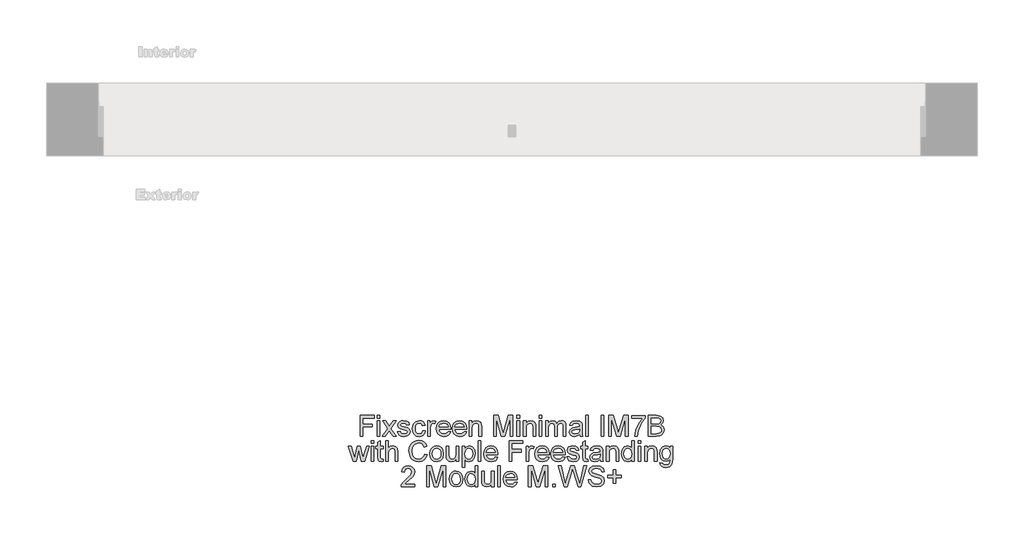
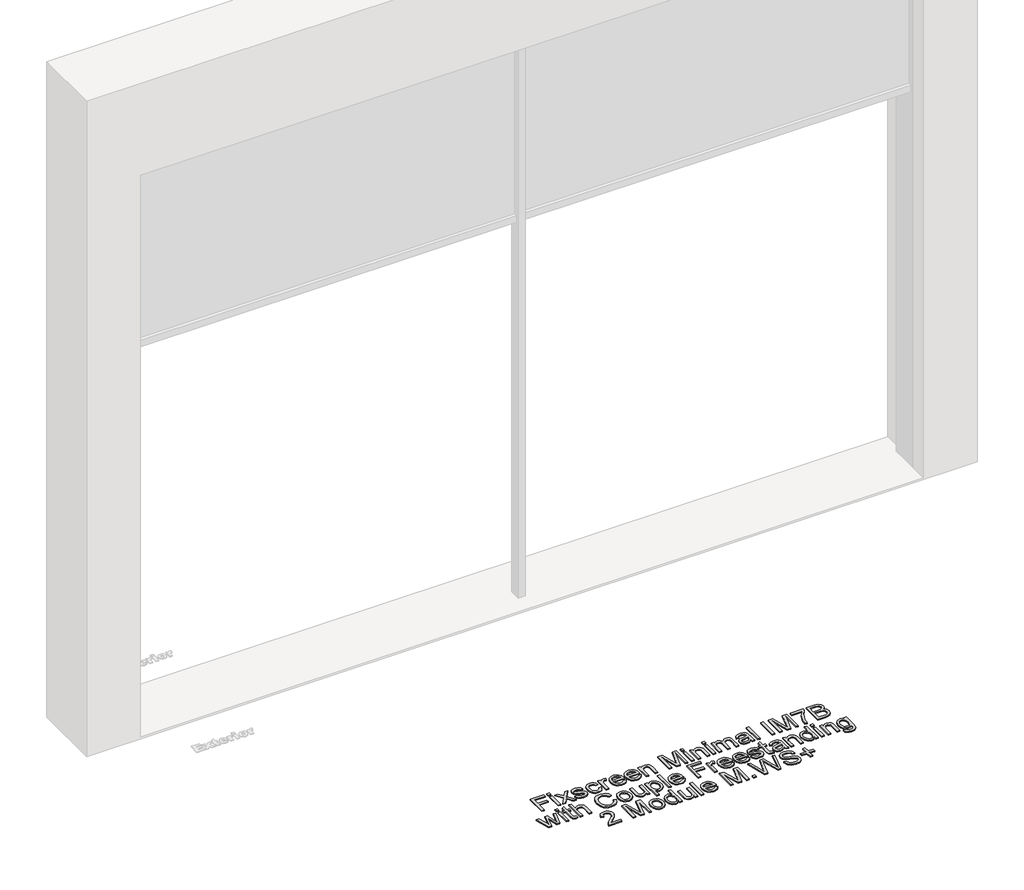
# One storey, part 6 of 14: 1 proxy.
"""IFC4 building model written with IfcOpenShell, lengths in millimetres."""

from ifc_helpers import new_model, si_unit, origin, origin_with_axes, place, context, project, spatial, polyline, outline, extrude, element, save

model = new_model("IFC4")

# Units and contexts
model_context = context("Model", 3, world=origin())
ifc_project = project(units=[si_unit("LENGTHUNIT", "METRE", prefix="MILLI")], contexts=[model_context])

# Site, building, storey
site = spatial("IfcSite", under=ifc_project)
building = spatial("IfcBuilding", under=site)
storey = spatial("IfcBuildingStorey", under=building, Name="Fixscreen Mini CF Overview Top", Elevation=0.0)

# Proxy
placement = place(None, origin())
element("IfcBuildingElementProxy", 1, Name="100mm Arial", ObjectType="100mm Arial", at=placement, inside=storey, context=model_context, shape_type="SweptSolid", body=[
    extrude(outline(polyline([(-8278.0016638, 2800.5131875), (-8278.0016638, 2900.9694977), (-8210.5075804, 2900.9694977), (-8210.5075804, 2888.4124589), (-8265.444625, 2888.4124589), (-8265.444625, 2858.5894918), (-8218.3557296, 2858.5894918), (-8218.3557296, 2846.0324531), (-8265.444625, 2846.0324531), (-8265.444625, 2800.5131875), (-8278.0016638, 2800.5131875)])), origin_with_axes(), (0.0, 0.0, 1.0), 5.0),
    extrude(outline(polyline([(-8194.811282, 2800.5131875), (-8194.811282, 2874.2857903), (-8182.2542432, 2874.2857903), (-8182.2542432, 2800.5131875), (-8194.811282, 2800.5131875)])), origin_with_axes(), (0.0, 0.0, 1.0), 5.0),
    extrude(outline(polyline([(-8194.811282, 2888.4124589), (-8194.811282, 2900.9694977), (-8182.2542432, 2900.9694977), (-8182.2542432, 2888.4124589), (-8194.811282, 2888.4124589)])), origin_with_axes(), (0.0, 0.0, 1.0), 5.0),
    extrude(outline(polyline([(-8171.2668343, 2800.5131875), (-8144.4359741, 2837.5956927), (-8169.6972044, 2874.2857903), (-8154.5895171, 2874.2857903), (-8142.4003604, 2856.6274545), (-8136.7104522, 2848.288796), (-8131.7808334, 2855.1068756), (-8117.8994195, 2874.2857903), (-8102.7917322, 2874.2857903), (-8129.3282868, 2837.5956927), (-8103.7727509, 2800.5131875), (-8118.8804381, 2800.5131875), (-8134.2579055, 2822.8068365), (-8137.0783342, 2826.8780639), (-8156.159147, 2800.5131875), (-8171.2668343, 2800.5131875)])), origin_with_axes(), (0.0, 0.0, 1.0), 5.0),
    extrude(outline(polyline([(-8097.4942315, 2822.4880054), (-8084.9371927, 2824.0576352), (-8079.1246572, 2814.737958), (-8065.807329, 2811.5005965), (-8053.0050355, 2814.4681779), (-8048.8357063, 2821.4334103), (-8053.029561, 2827.0742676), (-8065.9544818, 2830.6549857), (-8084.8636163, 2836.798615), (-8093.1164358, 2843.9723139), (-8095.9246016, 2854.1013315), (-8093.6682587, 2863.4577969), (-8087.5123667, 2870.6069704), (-8079.5293274, 2874.3225785), (-8068.7258595, 2875.8554202), (-8053.4464939, 2873.3906108), (-8043.7344093, 2866.7196839), (-8039.4179272, 2855.4502322), (-8051.974966, 2853.8806023), (-8056.6961182, 2860.8090466), (-8067.7448408, 2863.2983814), (-8079.7623193, 2860.9194112), (-8083.3675629, 2855.3766558), (-8081.8715094, 2851.7223613), (-8077.1871454, 2848.9509836), (-8066.3714147, 2846.2777077), (-8047.9405267, 2840.3670704), (-8039.381139, 2833.671618), (-8036.2786675, 2822.7577855), (-8039.9206992, 2810.740307), (-8050.4298616, 2802.0215037), (-8065.9790072, 2798.9435577), (-8078.6402792, 2800.4273484), (-8087.8802487, 2804.8787206), (-8094.0484035, 2812.2486232), (-8097.4942315, 2822.4880054)])), origin_with_axes(), (0.0, 0.0, 1.0), 5.0),
    extrude(outline(polyline([(-7975.0631035, 2827.1968949), (-7962.5060647, 2825.6272651), (-7966.0070751, 2814.4589808), (-7972.5860314, 2806.0191547), (-7981.6236657, 2800.712457), (-7992.5007101, 2798.9435577), (-8005.8578922, 2801.4114327), (-8016.3026752, 2808.8150579), (-8023.0441127, 2820.8294707), (-8025.2912586, 2837.1297088), (-8021.4530231, 2857.9886179), (-8009.7543756, 2871.3917853), (-7992.6723883, 2875.8554202), (-7982.0620585, 2874.3225785), (-7973.5793128, 2869.7240536), (-7967.4939314, 2862.3051), (-7964.0756946, 2852.3109725), (-7976.6327333, 2850.7413426), (-7982.4575316, 2860.146859), (-7992.5742865, 2863.2983814), (-8000.6891501, 2861.7471456), (-8007.1301507, 2857.0934384), (-8011.3332025, 2849.0858736), (-8012.7342198, 2837.4730653), (-8011.3638594, 2825.7039072), (-8007.2527781, 2817.6687513), (-8000.9282734, 2813.0426352), (-7992.917643, 2811.5005965), (-7981.0841055, 2815.3510947), (-7975.0631035, 2827.1968949)])), origin_with_axes(), (0.0, 0.0, 1.0), 5.0),
    extrude(outline(polyline([(-7951.5186558, 2800.5131875), (-7951.5186558, 2874.2857903), (-7940.5312469, 2874.2857903), (-7940.5312469, 2863.3719578), (-7932.7321486, 2873.427399), (-7924.8839994, 2875.8554202), (-7912.2779097, 2871.9803965), (-7916.4717644, 2860.7232074), (-7925.3009323, 2863.2983814), (-7932.4010548, 2860.8213093), (-7936.9260033, 2853.9541787), (-7938.961617, 2839.2879498), (-7938.961617, 2800.5131875), (-7951.5186558, 2800.5131875)])), origin_with_axes(), (0.0, 0.0, 1.0), 5.0),
    extrude(outline(polyline([(-7852.7791283, 2822.4880054), (-7840.4673442, 2820.9183755), (-7844.9033879, 2811.6416179), (-7851.9820506, 2804.7070423), (-7861.5439168, 2800.3844288), (-7873.429571, 2798.9435577), (-7888.1632449, 2801.4298268), (-7899.5001417, 2808.8886343), (-7906.7290229, 2820.8356021), (-7909.13865, 2836.7863523), (-7906.7044974, 2853.273597), (-7899.4020398, 2865.6037752), (-7888.2184272, 2873.2925089), (-7874.1408095, 2875.8554202), (-7860.5015845, 2873.2986403), (-7849.6030804, 2865.6283007), (-7842.4569727, 2853.322648), (-7840.0749367, 2836.8599287), (-7840.1485131, 2833.4754143), (-7896.5816112, 2833.4754143), (-7894.4080417, 2824.0760293), (-7889.3588614, 2817.1659792), (-7882.0717322, 2812.9169421), (-7873.1843163, 2811.5005965), (-7860.8725322, 2814.1248214), (-7852.7791283, 2822.4880054)]), holes=[polyline([(-7896.5816112, 2846.0324531), (-7852.6319755, 2846.0324531), (-7857.6596961, 2857.4122695), (-7864.9805478, 2861.8268534), (-7874.1898604, 2863.2983814), (-7889.653167, 2858.6017546), (-7894.5184063, 2853.1111158), (-7896.5816112, 2846.0324531)])]), origin_with_axes(), (0.0, 0.0, 1.0), 5.0),
    extrude(outline(polyline([(-7775.8672658, 2822.4880054), (-7763.5554817, 2820.9183755), (-7767.9915255, 2811.6416179), (-7775.0701882, 2804.7070423), (-7784.6320544, 2800.3844288), (-7796.5177085, 2798.9435577), (-7811.2513824, 2801.4298268), (-7822.5882792, 2808.8886343), (-7829.8171604, 2820.8356021), (-7832.2267875, 2836.7863523), (-7829.792635, 2853.273597), (-7822.4901774, 2865.6037752), (-7811.3065647, 2873.2925089), (-7797.228947, 2875.8554202), (-7783.5897221, 2873.2986403), (-7772.691218, 2865.6283007), (-7765.5451102, 2853.322648), (-7763.1630743, 2836.8599287), (-7763.2366507, 2833.4754143), (-7819.6697487, 2833.4754143), (-7817.4961793, 2824.0760293), (-7812.4469989, 2817.1659792), (-7805.1598697, 2812.9169421), (-7796.2724538, 2811.5005965), (-7783.9606697, 2814.1248214), (-7775.8672658, 2822.4880054)]), holes=[polyline([(-7819.6697487, 2846.0324531), (-7775.720113, 2846.0324531), (-7780.7478336, 2857.4122695), (-7788.0686854, 2861.8268534), (-7797.277998, 2863.2983814), (-7812.7413045, 2858.6017546), (-7817.6065439, 2853.1111158), (-7819.6697487, 2846.0324531)])]), origin_with_axes(), (0.0, 0.0, 1.0), 5.0),
    extrude(outline(polyline([(-7750.6060355, 2800.5131875), (-7750.6060355, 2874.2857903), (-7738.0489967, 2874.2857903), (-7738.0489967, 2863.9850944), (-7728.4472767, 2872.8878387), (-7715.3384149, 2875.8554202), (-7703.4803519, 2873.4641872), (-7695.386948, 2867.1856678), (-7691.6222889, 2857.9518297), (-7690.9601014, 2845.8117239), (-7690.9601014, 2800.5131875), (-7703.5171401, 2800.5131875), (-7703.5171401, 2844.1194667), (-7704.9641426, 2855.229503), (-7710.0777024, 2861.1033521), (-7718.6984038, 2863.2983814), (-7732.3223003, 2858.3687627), (-7736.6173226, 2851.2257206), (-7738.0489967, 2839.6558318), (-7738.0489967, 2800.5131875), (-7750.6060355, 2800.5131875)])), origin_with_axes(), (0.0, 0.0, 1.0), 5.0),
    extrude(outline(polyline([(-7632.8837971, 2800.5131875), (-7632.8837971, 2900.9694977), (-7611.2768612, 2900.9694977), (-7590.7245204, 2830.1644764), (-7586.5797166, 2815.3756201), (-7582.0915563, 2831.3907497), (-7561.882572, 2900.9694977), (-7540.2756361, 2900.9694977), (-7540.2756361, 2800.5131875), (-7552.8326749, 2800.5131875), (-7552.8326749, 2888.4124589), (-7578.0693798, 2800.5131875), (-7595.0900534, 2800.5131875), (-7620.3267583, 2888.4124589), (-7620.3267583, 2800.5131875), (-7632.8837971, 2800.5131875)])), origin_with_axes(), (0.0, 0.0, 1.0), 5.0),
    extrude(outline(polyline([(-7519.8704481, 2888.4124589), (-7519.8704481, 2900.9694977), (-7507.3134094, 2900.9694977), (-7507.3134094, 2888.4124589), (-7519.8704481, 2888.4124589)])), origin_with_axes(), (0.0, 0.0, 1.0), 5.0),
    extrude(outline(polyline([(-7519.8704481, 2800.5131875), (-7519.8704481, 2874.2857903), (-7507.3134094, 2874.2857903), (-7507.3134094, 2800.5131875), (-7519.8704481, 2800.5131875)])), origin_with_axes(), (0.0, 0.0, 1.0), 5.0),
    extrude(outline(polyline([(-7488.4778512, 2800.5131875), (-7488.4778512, 2874.2857903), (-7475.9208124, 2874.2857903), (-7475.9208124, 2863.9850944), (-7466.3190924, 2872.8878387), (-7453.2102306, 2875.8554202), (-7441.3521676, 2873.4641872), (-7433.2587637, 2867.1856678), (-7429.4941047, 2857.9518297), (-7428.8319171, 2845.8117239), (-7428.8319171, 2800.5131875), (-7441.3889558, 2800.5131875), (-7441.3889558, 2844.1194667), (-7442.8359583, 2855.229503), (-7447.9495181, 2861.1033521), (-7456.5702195, 2863.2983814), (-7470.1941161, 2858.3687627), (-7474.4891383, 2851.2257206), (-7475.9208124, 2839.6558318), (-7475.9208124, 2800.5131875), (-7488.4778512, 2800.5131875)])), origin_with_axes(), (0.0, 0.0, 1.0), 5.0),
    extrude(outline(polyline([(-7411.5659888, 2800.5131875), (-7411.5659888, 2874.2857903), (-7399.00895, 2874.2857903), (-7399.00895, 2800.5131875), (-7411.5659888, 2800.5131875)])), origin_with_axes(), (0.0, 0.0, 1.0), 5.0),
    extrude(outline(polyline([(-7411.5659888, 2888.4124589), (-7411.5659888, 2900.9694977), (-7399.00895, 2900.9694977), (-7399.00895, 2888.4124589), (-7411.5659888, 2888.4124589)])), origin_with_axes(), (0.0, 0.0, 1.0), 5.0),
    extrude(outline(polyline([(-7380.1733918, 2800.5131875), (-7380.1733918, 2874.2857903), (-7367.6163531, 2874.2857903), (-7367.6163531, 2862.1456845), (-7358.9833889, 2872.0907611), (-7346.6961303, 2875.8554202), (-7334.114566, 2872.0171847), (-7327.1983845, 2861.2627677), (-7317.4004607, 2872.207257), (-7305.027363, 2875.8554202), (-7295.5881241, 2874.3379069), (-7288.6075632, 2869.7853672), (-7284.2941468, 2862.0751738), (-7282.8563414, 2851.0846991), (-7282.8563414, 2800.5131875), (-7295.4133801, 2800.5131875), (-7295.4133801, 2845.6890966), (-7296.5783398, 2856.1737334), (-7300.79672, 2861.3363441), (-7307.9704189, 2863.2983814), (-7320.3189912, 2858.2706608), (-7324.0070082, 2851.7284926), (-7325.2363472, 2842.1574294), (-7325.2363472, 2800.5131875), (-7337.793386, 2800.5131875), (-7337.793386, 2847.0870481), (-7340.6996538, 2859.2516794), (-7350.2277974, 2863.2983814), (-7359.5229492, 2860.6005801), (-7365.7033667, 2852.7033799), (-7367.6163531, 2837.71832), (-7367.6163531, 2800.5131875), (-7380.1733918, 2800.5131875)])), origin_with_axes(), (0.0, 0.0, 1.0), 5.0),
    extrude(outline(polyline([(-7216.9318878, 2809.9309666), (-7229.1087819, 2801.4206298), (-7242.5610002, 2798.9435577), (-7253.0548341, 2800.4334798), (-7260.7956844, 2804.903246), (-7265.5689533, 2811.6906688), (-7267.1600429, 2820.1335606), (-7264.7565472, 2830.0663745), (-7258.4412396, 2837.2768616), (-7249.6488599, 2841.3971399), (-7238.7840784, 2843.2856008), (-7217.0054642, 2847.6020829), (-7216.9318878, 2850.3979861), (-7220.3899786, 2859.6686124), (-7234.2713925, 2863.2983814), (-7246.9755841, 2860.882623), (-7253.0333743, 2852.3109725), (-7265.5904131, 2853.8806023), (-7260.1580223, 2866.1433355), (-7249.2196643, 2873.3292971), (-7232.6527118, 2875.8554202), (-7217.4346599, 2873.6236027), (-7208.8384839, 2868.0195337), (-7204.9879857, 2859.4969341), (-7204.3748491, 2848.5095252), (-7204.3748491, 2832.8868031), (-7203.7371869, 2811.0714008), (-7201.2355894, 2800.5131875), (-7213.7926281, 2800.5131875), (-7216.9318878, 2809.9309666)]), holes=[polyline([(-7216.9318878, 2835.0450442), (-7237.189923, 2831.1945459), (-7247.993391, 2829.1589322), (-7252.8862215, 2825.8479943), (-7254.6030041, 2821.0164774), (-7250.8628705, 2814.2229232), (-7239.8877243, 2811.5005965), (-7227.1835328, 2814.5049661), (-7218.992027, 2821.7767669), (-7217.0054642, 2831.4888515), (-7216.9318878, 2835.0450442)])]), origin_with_axes(), (0.0, 0.0, 1.0), 5.0),
    extrude(outline(polyline([(-7187.1089208, 2800.5131875), (-7187.1089208, 2900.9694977), (-7174.551882, 2900.9694977), (-7174.551882, 2800.5131875), (-7187.1089208, 2800.5131875)])), origin_with_axes(), (0.0, 0.0, 1.0), 5.0),
    extrude(outline(polyline([(-7113.336318, 2800.5131875), (-7113.336318, 2900.9694977), (-7100.7792792, 2900.9694977), (-7100.7792792, 2800.5131875), (-7113.336318, 2800.5131875)])), origin_with_axes(), (0.0, 0.0, 1.0), 5.0),
    extrude(outline(polyline([(-7075.6652017, 2800.5131875), (-7075.6652017, 2900.9694977), (-7054.0582658, 2900.9694977), (-7033.505925, 2830.1644764), (-7029.3611212, 2815.3756201), (-7024.8729609, 2831.3907497), (-7004.6639766, 2900.9694977), (-6983.0570408, 2900.9694977), (-6983.0570408, 2800.5131875), (-6995.6140795, 2800.5131875), (-6995.6140795, 2888.4124589), (-7020.8507844, 2800.5131875), (-7037.8714581, 2800.5131875), (-7063.1081629, 2888.4124589), (-7063.1081629, 2800.5131875), (-7075.6652017, 2800.5131875)])), origin_with_axes(), (0.0, 0.0, 1.0), 5.0),
    extrude(outline(polyline([(-6965.7911125, 2886.8428291), (-6965.7911125, 2899.3998678), (-6899.8666589, 2899.3998678), (-6899.8666589, 2889.2463248), (-6918.567327, 2862.2315236), (-6932.8779366, 2827.8100316), (-6937.5377752, 2800.5131875), (-6950.094814, 2800.5131875), (-6945.1038816, 2828.8401012), (-6931.4064087, 2860.8580975), (-6912.4236977, 2886.8428291), (-6965.7911125, 2886.8428291)])), origin_with_axes(), (0.0, 0.0, 1.0), 5.0),
    extrude(outline(polyline([(-6884.1703605, 2800.5131875), (-6884.1703605, 2900.9694977), (-6845.8370566, 2900.9694977), (-6827.0628121, 2898.014179), (-6815.9773013, 2888.9274937), (-6811.9673875, 2876.0761494), (-6815.3396392, 2864.3407137), (-6825.5299704, 2855.4502322), (-6813.1568727, 2846.081504), (-6808.8281279, 2830.458782), (-6811.7834466, 2816.9575127), (-6819.1042983, 2807.3435299), (-6830.0303935, 2802.2422329), (-6846.1313622, 2800.5131875), (-6884.1703605, 2800.5131875)]), holes=[polyline([(-6871.6133217, 2860.1591217), (-6848.6820107, 2860.1591217), (-6835.291106, 2861.2382422), (-6827.2344903, 2865.8858181), (-6824.5244263, 2874.0650611), (-6827.0505494, 2882.2565669), (-6834.2855619, 2887.1003465), (-6850.4233188, 2888.4124589), (-6871.6133217, 2888.4124589), (-6871.6133217, 2860.1591217)]), polyline([(-6871.6133217, 2813.0702263), (-6845.861582, 2813.0702263), (-6836.5419048, 2813.5607356), (-6828.6569674, 2816.2953251), (-6823.4330431, 2821.8748687), (-6821.3851666, 2830.3361546), (-6823.7886623, 2840.0972902), (-6831.5754979, 2845.9220885), (-6847.0878554, 2847.6020829), (-6871.6133217, 2847.6020829), (-6871.6133217, 2813.0702263)])]), origin_with_axes(), (0.0, 0.0, 1.0), 5.0),
    extrude(outline(polyline([(-8312.0675365, 2678.5383697), (-8334.5083383, 2752.3109725), (-8321.4607902, 2752.3109725), (-8308.7320731, 2709.268779), (-8304.9306258, 2693.8913116), (-8301.8158916, 2708.7046933), (-8291.686874, 2752.3109725), (-8276.7263395, 2752.3109725), (-8266.6463729, 2708.8273206), (-8263.8749952, 2695.4118905), (-8259.9018696, 2709.5630846), (-8247.1486271, 2752.3109725), (-8234.0520281, 2752.3109725), (-8256.6645081, 2678.5383697), (-8271.8457717, 2678.5383697), (-8281.48428, 2721.8012923), (-8284.2801832, 2735.2902988), (-8296.7145946, 2678.5383697), (-8312.0675365, 2678.5383697)])), origin_with_axes(), (0.0, 0.0, 1.0), 5.0),
    extrude(outline(polyline([(-8225.419064, 2678.5383697), (-8225.419064, 2752.3109725), (-8212.8620252, 2752.3109725), (-8212.8620252, 2678.5383697), (-8225.419064, 2678.5383697)])), origin_with_axes(), (0.0, 0.0, 1.0), 5.0),
    extrude(outline(polyline([(-8225.419064, 2766.4376411), (-8225.419064, 2778.9946798), (-8212.8620252, 2778.9946798), (-8212.8620252, 2766.4376411), (-8225.419064, 2766.4376411)])), origin_with_axes(), (0.0, 0.0, 1.0), 5.0),
    extrude(outline(polyline([(-8167.3427596, 2689.0107438), (-8165.7731298, 2678.1704877), (-8175.1663834, 2676.9687399), (-8185.6878085, 2679.0534045), (-8190.9362583, 2684.5225835), (-8192.4568372, 2698.7718794), (-8192.4568372, 2739.7539337), (-8201.8746163, 2739.7539337), (-8201.8746163, 2752.3109725), (-8192.4568372, 2752.3109725), (-8192.4568372, 2770.2390884), (-8179.8997984, 2777.6212537), (-8179.8997984, 2752.3109725), (-8167.3427596, 2752.3109725), (-8167.3427596, 2739.7539337), (-8179.8997984, 2739.7539337), (-8179.8997984, 2699.1397614), (-8179.2376108, 2692.6650383), (-8177.0916325, 2690.3719072), (-8172.8119386, 2689.5257786), (-8167.3427596, 2689.0107438)])), origin_with_axes(), (0.0, 0.0, 1.0), 5.0),
    extrude(outline(polyline([(-8154.7857209, 2678.5383697), (-8154.7857209, 2778.9946798), (-8142.2286821, 2778.9946798), (-8142.2286821, 2742.0593275), (-8132.4368897, 2750.9252836), (-8120.3764916, 2753.8806023), (-8106.2743484, 2750.6555035), (-8097.7149607, 2741.7404965), (-8095.1397867, 2725.2348576), (-8095.1397867, 2678.5383697), (-8107.6968255, 2678.5383697), (-8107.6968255, 2723.9350079), (-8111.6944765, 2737.1787597), (-8123.025242, 2741.3235635), (-8133.3136751, 2738.5276604), (-8140.1808057, 2730.9492913), (-8142.2286821, 2717.7300649), (-8142.2286821, 2678.5383697), (-8154.7857209, 2678.5383697)])), origin_with_axes(), (0.0, 0.0, 1.0), 5.0),
    extrude(outline(polyline([(-7966.4301393, 2714.2474487), (-7953.8731006, 2711.0100871), (-7959.667242, 2696.3775808), (-7968.7600586, 2685.6875431), (-7980.7039608, 2679.1484407), (-7995.0513586, 2676.9687399), (-8009.6164199, 2678.6180775), (-8021.183243, 2683.5660903), (-8030.049199, 2691.6411001), (-8036.5116594, 2702.6714286), (-8041.772372, 2729.5268142), (-8040.2855156, 2744.174649), (-8035.8249464, 2756.8236583), (-8028.6236563, 2767.0722375), (-8018.9146373, 2774.5187822), (-8007.3999309, 2779.0529278), (-7994.7815784, 2780.5643097), (-7981.0135948, 2778.6084038), (-7969.6307127, 2772.7406859), (-7960.9885515, 2763.3229069), (-7955.4427304, 2750.7168172), (-7967.9997692, 2747.7247103), (-7978.3004651, 2763.1634913), (-7995.2720878, 2768.0072709), (-8014.9169863, 2762.6361938), (-8026.0147598, 2748.2152196), (-8029.2153332, 2729.5513397), (-8025.4261486, 2707.9198784), (-8013.6293993, 2694.0997781), (-7996.3021574, 2689.5257786), (-7985.8205862, 2691.0831457), (-7977.0864545, 2695.7552471), (-7970.4921697, 2703.4930317), (-7966.4301393, 2714.2474487)])), origin_with_axes(), (0.0, 0.0, 1.0), 5.0),
    extrude(outline(polyline([(-7941.3160618, 2715.4246711), (-7938.5998664, 2733.2117655), (-7930.4512802, 2745.713622), (-7920.3835763, 2751.8388572), (-7908.3293096, 2753.8806023), (-7895.1376744, 2751.3943332), (-7884.6009209, 2743.9355257), (-7877.6939364, 2732.0927911), (-7875.3916083, 2716.4547407), (-7879.4628357, 2694.1120408), (-7891.3208987, 2681.4691629), (-7908.3293096, 2676.9687399), (-7921.6803603, 2679.445812), (-7932.2048511, 2686.8770283), (-7939.0382591, 2698.9680832), (-7941.3160618, 2715.4246711)]), holes=[polyline([(-7928.759023, 2715.4491965), (-7927.3058892, 2704.0847086), (-7922.9464875, 2695.988239), (-7916.3859253, 2691.1413937), (-7908.3293096, 2689.5257786), (-7900.3094821, 2691.1505908), (-7893.7611826, 2696.0250272), (-7889.4017809, 2704.2287957), (-7887.948647, 2715.841604), (-7889.410978, 2726.8749982), (-7893.7979708, 2734.8611032), (-7900.3554673, 2739.7079484), (-7908.3293096, 2741.3235635), (-7916.3859253, 2739.7140798), (-7922.9464875, 2734.8856286), (-7927.3058892, 2726.8075531), (-7928.759023, 2715.4491965)])]), origin_with_axes(), (0.0, 0.0, 1.0), 5.0),
    extrude(outline(polyline([(-7814.1760443, 2678.5383697), (-7814.1760443, 2691.2180358), (-7824.0107563, 2680.5310638), (-7836.8375752, 2676.9687399), (-7848.6465872, 2679.4703374), (-7856.7890421, 2685.7488568), (-7860.5291757, 2694.9949576), (-7861.2649397, 2706.6690796), (-7861.2649397, 2752.3109725), (-7848.7079009, 2752.3109725), (-7848.7079009, 2712.579717), (-7847.9476114, 2699.7774236), (-7842.9812045, 2692.2603681), (-7833.6247391, 2689.5257786), (-7823.1401022, 2692.3216818), (-7816.211658, 2699.9368391), (-7814.1760443, 2713.9286176), (-7814.1760443, 2752.3109725), (-7801.6190055, 2752.3109725), (-7801.6190055, 2678.5383697), (-7814.1760443, 2678.5383697)])), origin_with_axes(), (0.0, 0.0, 1.0), 5.0),
    extrude(outline(polyline([(-7784.3530772, 2650.2850325), (-7784.3530772, 2752.3109725), (-7771.7960384, 2752.3109725), (-7771.7960384, 2739.9991884), (-7763.1140233, 2750.4102488), (-7751.3908504, 2753.8806023), (-7735.4738228, 2749.02456), (-7725.075025, 2735.3393498), (-7721.5678834, 2715.9887568), (-7725.5287462, 2695.6448825), (-7737.0311899, 2681.787994), (-7752.9114293, 2676.9687399), (-7763.8375246, 2680.1938387), (-7771.7960384, 2688.3485562), (-7771.7960384, 2650.2850325), (-7784.3530772, 2650.2850325)]), holes=[polyline([(-7771.7960384, 2714.8360599), (-7770.4379407, 2703.5788708), (-7766.3636476, 2695.7061961), (-7760.3518427, 2691.070883), (-7753.1812095, 2689.5257786), (-7745.8940803, 2691.1260653), (-7739.7289912, 2695.9269253), (-7735.5259394, 2704.0877743), (-7734.1249221, 2715.7680276), (-7735.4922169, 2726.963903), (-7739.5941011, 2734.9469423), (-7745.596709, 2739.7294082), (-7752.6661747, 2741.3235635), (-7759.7632315, 2739.6282407), (-7765.9957656, 2734.5422721), (-7770.3459702, 2726.2250733), (-7771.7960384, 2714.8360599)])]), origin_with_axes(), (0.0, 0.0, 1.0), 5.0),
    extrude(outline(polyline([(-7707.4412147, 2678.5383697), (-7707.4412147, 2778.9946798), (-7694.884176, 2778.9946798), (-7694.884176, 2678.5383697), (-7707.4412147, 2678.5383697)])), origin_with_axes(), (0.0, 0.0, 1.0), 5.0),
    extrude(outline(polyline([(-7624.3979857, 2700.5131875), (-7612.0862016, 2698.9435577), (-7616.5222453, 2689.6668001), (-7623.600908, 2682.7322244), (-7633.1627742, 2678.409611), (-7645.0484284, 2676.9687399), (-7659.7821023, 2679.455009), (-7671.1189991, 2686.9138165), (-7678.3478803, 2698.8607842), (-7680.7575074, 2714.8115344), (-7678.3233548, 2731.2987792), (-7671.0208972, 2743.6289574), (-7659.8372846, 2751.3176911), (-7645.7596669, 2753.8806023), (-7632.1204419, 2751.3238224), (-7621.2219378, 2743.6534828), (-7614.07583, 2731.3478301), (-7611.6937941, 2714.8851108), (-7611.7673705, 2711.5005965), (-7668.2004686, 2711.5005965), (-7666.0268991, 2702.1012115), (-7660.9777188, 2695.1911613), (-7653.6905896, 2690.9421243), (-7644.8031737, 2689.5257786), (-7632.4913896, 2692.1500035), (-7624.3979857, 2700.5131875)]), holes=[polyline([(-7668.2004686, 2724.0576352), (-7624.2508329, 2724.0576352), (-7629.2785535, 2735.4374516), (-7636.5994052, 2739.8520356), (-7645.8087178, 2741.3235635), (-7661.2720243, 2736.6269367), (-7666.1372637, 2731.136298), (-7668.2004686, 2724.0576352)])]), origin_with_axes(), (0.0, 0.0, 1.0), 5.0),
    extrude(outline(polyline([(-7558.3263794, 2678.5383697), (-7558.3263794, 2778.9946798), (-7490.832296, 2778.9946798), (-7490.832296, 2766.4376411), (-7545.7693406, 2766.4376411), (-7545.7693406, 2736.614674), (-7498.6804452, 2736.614674), (-7498.6804452, 2724.0576352), (-7545.7693406, 2724.0576352), (-7545.7693406, 2678.5383697), (-7558.3263794, 2678.5383697)])), origin_with_axes(), (0.0, 0.0, 1.0), 5.0),
    extrude(outline(polyline([(-7475.1359975, 2678.5383697), (-7475.1359975, 2752.3109725), (-7464.1485886, 2752.3109725), (-7464.1485886, 2741.3971399), (-7456.3494903, 2751.4525811), (-7448.5013411, 2753.8806023), (-7435.8952514, 2750.0055786), (-7440.0891061, 2738.7483896), (-7448.918274, 2741.3235635), (-7456.0183965, 2738.8464914), (-7460.543345, 2731.9793609), (-7462.5789588, 2717.313132), (-7462.5789588, 2678.5383697), (-7475.1359975, 2678.5383697)])), origin_with_axes(), (0.0, 0.0, 1.0), 5.0),
    extrude(outline(polyline([(-7376.39647, 2700.5131875), (-7364.0846859, 2698.9435577), (-7368.5207296, 2689.6668001), (-7375.5993924, 2682.7322244), (-7385.1612586, 2678.409611), (-7397.0469127, 2676.9687399), (-7411.7805866, 2679.455009), (-7423.1174834, 2686.9138165), (-7430.3463646, 2698.8607842), (-7432.7559917, 2714.8115344), (-7430.3218391, 2731.2987792), (-7423.0193815, 2743.6289574), (-7411.8357689, 2751.3176911), (-7397.7581512, 2753.8806023), (-7384.1189262, 2751.3238224), (-7373.2204221, 2743.6534828), (-7366.0743144, 2731.3478301), (-7363.6922784, 2714.8851108), (-7363.7658548, 2711.5005965), (-7420.1989529, 2711.5005965), (-7418.0253835, 2702.1012115), (-7412.9762031, 2695.1911613), (-7405.6890739, 2690.9421243), (-7396.801658, 2689.5257786), (-7384.4898739, 2692.1500035), (-7376.39647, 2700.5131875)]), holes=[polyline([(-7420.1989529, 2724.0576352), (-7376.2493172, 2724.0576352), (-7381.2770378, 2735.4374516), (-7388.5978895, 2739.8520356), (-7397.8072021, 2741.3235635), (-7413.2705087, 2736.6269367), (-7418.1357481, 2731.136298), (-7420.1989529, 2724.0576352)])]), origin_with_axes(), (0.0, 0.0, 1.0), 5.0),
    extrude(outline(polyline([(-7299.4846076, 2700.5131875), (-7287.1728235, 2698.9435577), (-7291.6088672, 2689.6668001), (-7298.6875299, 2682.7322244), (-7308.2493961, 2678.409611), (-7320.1350502, 2676.9687399), (-7334.8687241, 2679.455009), (-7346.2056209, 2686.9138165), (-7353.4345022, 2698.8607842), (-7355.8441292, 2714.8115344), (-7353.4099767, 2731.2987792), (-7346.1075191, 2743.6289574), (-7334.9239064, 2751.3176911), (-7320.8462887, 2753.8806023), (-7307.2070638, 2751.3238224), (-7296.3085597, 2743.6534828), (-7289.1624519, 2731.3478301), (-7286.780416, 2714.8851108), (-7286.8539924, 2711.5005965), (-7343.2870904, 2711.5005965), (-7341.113521, 2702.1012115), (-7336.0643406, 2695.1911613), (-7328.7772114, 2690.9421243), (-7319.8897956, 2689.5257786), (-7307.5780115, 2692.1500035), (-7299.4846076, 2700.5131875)]), holes=[polyline([(-7343.2870904, 2724.0576352), (-7299.3374548, 2724.0576352), (-7304.3651754, 2735.4374516), (-7311.6860271, 2739.8520356), (-7320.8953397, 2741.3235635), (-7336.3586462, 2736.6269367), (-7341.2238856, 2731.136298), (-7343.2870904, 2724.0576352)])]), origin_with_axes(), (0.0, 0.0, 1.0), 5.0),
    extrude(outline(polyline([(-7278.9322668, 2700.5131875), (-7266.375228, 2702.0828174), (-7260.5626925, 2692.7631402), (-7247.2453642, 2689.5257786), (-7234.4430708, 2692.49336), (-7230.2737415, 2699.4585925), (-7234.4675963, 2705.0994497), (-7247.392517, 2708.6801678), (-7266.3016516, 2714.8237972), (-7274.554471, 2721.9974961), (-7277.3626369, 2732.1265137), (-7275.106294, 2741.4829791), (-7268.950402, 2748.6321525), (-7260.9673627, 2752.3477607), (-7250.1638947, 2753.8806023), (-7234.8845292, 2751.4157929), (-7225.1724445, 2744.7448661), (-7220.8559625, 2733.4754143), (-7233.4130012, 2731.9057845), (-7238.1341535, 2738.8342287), (-7249.1828761, 2741.3235635), (-7261.2003546, 2738.9445933), (-7264.8055981, 2733.4018379), (-7263.3095447, 2729.7475434), (-7258.6251806, 2726.9761657), (-7247.80945, 2724.3028899), (-7229.378562, 2718.3922525), (-7220.8191743, 2711.6968002), (-7217.7167028, 2700.7829677), (-7221.3587345, 2688.7654892), (-7231.8678968, 2680.0466859), (-7247.4170425, 2676.9687399), (-7260.0783145, 2678.4525306), (-7269.318284, 2682.9039027), (-7275.4864387, 2690.2738053), (-7278.9322668, 2700.5131875)])), origin_with_axes(), (0.0, 0.0, 1.0), 5.0),
    extrude(outline(polyline([(-7176.9063268, 2689.0107438), (-7175.3366969, 2678.1704877), (-7184.7299505, 2676.9687399), (-7195.2513756, 2679.0534045), (-7200.4998254, 2684.5225835), (-7202.0204043, 2698.7718794), (-7202.0204043, 2739.7539337), (-7211.4381834, 2739.7539337), (-7211.4381834, 2752.3109725), (-7202.0204043, 2752.3109725), (-7202.0204043, 2770.2390884), (-7189.4633655, 2777.6212537), (-7189.4633655, 2752.3109725), (-7176.9063268, 2752.3109725), (-7176.9063268, 2739.7539337), (-7189.4633655, 2739.7539337), (-7189.4633655, 2699.1397614), (-7188.8011779, 2692.6650383), (-7186.6551996, 2690.3719072), (-7182.3755058, 2689.5257786), (-7176.9063268, 2689.0107438)])), origin_with_axes(), (0.0, 0.0, 1.0), 5.0),
    extrude(outline(polyline([(-7117.2603926, 2687.9561488), (-7129.4372867, 2679.445812), (-7142.8895049, 2676.9687399), (-7153.3833389, 2678.4586619), (-7161.1241892, 2682.9284282), (-7165.8974581, 2689.715851), (-7167.4885477, 2698.1587428), (-7165.085052, 2708.0915566), (-7158.7697444, 2715.3020437), (-7149.9773647, 2719.4223221), (-7139.1125831, 2721.310783), (-7117.333969, 2725.6272651), (-7117.2603926, 2728.4231682), (-7120.7184834, 2737.6937945), (-7134.5998973, 2741.3235635), (-7147.3040889, 2738.9078051), (-7153.3618791, 2730.3361546), (-7165.9189178, 2731.9057845), (-7160.486527, 2744.1685176), (-7149.5481691, 2751.3544793), (-7132.9812165, 2753.8806023), (-7117.7631647, 2751.6487849), (-7109.1669887, 2746.0447158), (-7105.3164905, 2737.5221163), (-7104.7033538, 2726.5347073), (-7104.7033538, 2710.9119853), (-7104.0656917, 2689.096583), (-7101.5640942, 2678.5383697), (-7114.1211329, 2678.5383697), (-7117.2603926, 2687.9561488)]), holes=[polyline([(-7117.2603926, 2713.0702263), (-7137.5184278, 2709.2197281), (-7148.3218957, 2707.1841144), (-7153.2147263, 2703.8731764), (-7154.9315089, 2699.0416596), (-7151.1913753, 2692.2481054), (-7140.2162291, 2689.5257786), (-7127.5120375, 2692.5301482), (-7119.3205318, 2699.801949), (-7117.333969, 2709.5140337), (-7117.2603926, 2713.0702263)])]), origin_with_axes(), (0.0, 0.0, 1.0), 5.0),
    extrude(outline(polyline([(-7087.4374255, 2678.5383697), (-7087.4374255, 2752.3109725), (-7074.8803868, 2752.3109725), (-7074.8803868, 2742.0102766), (-7065.2786667, 2750.9130209), (-7052.1698049, 2753.8806023), (-7040.311742, 2751.4893693), (-7032.2183381, 2745.21085), (-7028.453679, 2735.9770119), (-7027.7914914, 2723.836906), (-7027.7914914, 2678.5383697), (-7040.3485302, 2678.5383697), (-7040.3485302, 2722.1446489), (-7041.7955327, 2733.2546851), (-7046.9090924, 2739.1285343), (-7055.5297938, 2741.3235635), (-7069.1536904, 2736.3939448), (-7073.4487127, 2729.2509027), (-7074.8803868, 2717.681014), (-7074.8803868, 2678.5383697), (-7087.4374255, 2678.5383697)])), origin_with_axes(), (0.0, 0.0, 1.0), 5.0),
    extrude(outline(polyline([(-6965.0062975, 2678.5383697), (-6965.0062975, 2690.3841699), (-6973.3142993, 2680.3225974), (-6984.7983489, 2676.9687399), (-7000.3474945, 2681.8247822), (-7011.3349035, 2695.3751023), (-7015.2344526, 2715.3510947), (-7011.6414718, 2735.3393498), (-7000.8747921, 2749.0981364), (-6984.8473998, 2753.8806023), (-6973.2713797, 2750.4592998), (-6965.0062975, 2741.5688182), (-6965.0062975, 2778.9946798), (-6952.4492588, 2778.9946798), (-6952.4492588, 2678.5383697), (-6965.0062975, 2678.5383697)]), holes=[polyline([(-7002.6774138, 2715.4001456), (-7001.2610682, 2704.041789), (-6997.0120311, 2695.9637135), (-6990.837745, 2691.1352623), (-6983.645652, 2689.5257786), (-6976.4566246, 2691.061686), (-6970.4386883, 2695.6694079), (-6966.3643952, 2703.4347837), (-6965.0062975, 2714.4436524), (-6966.3889207, 2726.479525), (-6970.5367902, 2734.824315), (-6976.7080107, 2739.6987514), (-6984.1606868, 2741.3235635), (-6991.4263562, 2739.7631307), (-6997.3799131, 2735.0818324), (-7001.3530387, 2727.0405451), (-7002.6774138, 2715.4001456)])]), origin_with_axes(), (0.0, 0.0, 1.0), 5.0),
    extrude(outline(polyline([(-6933.6137006, 2678.5383697), (-6933.6137006, 2752.3109725), (-6921.0566619, 2752.3109725), (-6921.0566619, 2678.5383697), (-6933.6137006, 2678.5383697)])), origin_with_axes(), (0.0, 0.0, 1.0), 5.0),
    extrude(outline(polyline([(-6933.6137006, 2766.4376411), (-6933.6137006, 2778.9946798), (-6921.0566619, 2778.9946798), (-6921.0566619, 2766.4376411), (-6933.6137006, 2766.4376411)])), origin_with_axes(), (0.0, 0.0, 1.0), 5.0),
    extrude(outline(polyline([(-6902.2211037, 2678.5383697), (-6902.2211037, 2752.3109725), (-6889.6640649, 2752.3109725), (-6889.6640649, 2742.0102766), (-6880.0623449, 2750.9130209), (-6866.9534831, 2753.8806023), (-6855.0954201, 2751.4893693), (-6847.0020162, 2745.21085), (-6843.2373571, 2735.9770119), (-6842.5751695, 2723.836906), (-6842.5751695, 2678.5383697), (-6855.1322083, 2678.5383697), (-6855.1322083, 2722.1446489), (-6856.5792108, 2733.2546851), (-6861.6927706, 2739.1285343), (-6870.313472, 2741.3235635), (-6883.9373685, 2736.3939448), (-6888.2323908, 2729.2509027), (-6889.6640649, 2717.681014), (-6889.6640649, 2678.5383697), (-6902.2211037, 2678.5383697)])), origin_with_axes(), (0.0, 0.0, 1.0), 5.0),
    extrude(outline(polyline([(-6828.4485009, 2672.2598503), (-6815.8914622, 2670.6902205), (-6811.8202348, 2664.0683446), (-6799.631078, 2661.2724414), (-6786.7797336, 2664.4362265), (-6780.648367, 2673.3144454), (-6779.7899757, 2687.9561488), (-6788.6314063, 2680.8928145), (-6799.4103488, 2678.5383697), (-6812.3567293, 2681.2790906), (-6822.010566, 2689.5012532), (-6828.0162396, 2701.5555199), (-6830.0181308, 2715.7925531), (-6826.42515, 2735.2535106), (-6816.0263522, 2749.02456), (-6800.0234854, 2753.8806023), (-6788.8214787, 2751.1337501), (-6779.7899757, 2742.8931934), (-6779.7899757, 2752.3109725), (-6767.2329369, 2752.3109725), (-6767.2329369, 2688.6183364), (-6770.6665022, 2664.2277601), (-6781.5435465, 2652.8847319), (-6799.8763326, 2648.7154026), (-6811.5596517, 2650.1838649), (-6820.7597672, 2654.5892518), (-6826.6612076, 2661.943826), (-6828.4485009, 2672.2598503)]), holes=[polyline([(-6817.461092, 2716.6509444), (-6816.1213884, 2705.1331723), (-6812.1022776, 2697.2145123), (-6806.0598158, 2692.6251844), (-6798.6500593, 2691.0954085), (-6791.2954851, 2692.6159874), (-6785.2223665, 2697.1777241), (-6781.1480734, 2704.9952165), (-6779.7899757, 2716.2830624), (-6781.1879273, 2727.1693038), (-6785.381782, 2735.008256), (-6791.5438055, 2739.7447366), (-6798.8462631, 2741.3235635), (-6806.0168963, 2739.7692621), (-6812.0287012, 2735.1063578), (-6816.1029943, 2727.3839016), (-6817.461092, 2716.6509444)])]), origin_with_axes(), (0.0, 0.0, 1.0), 5.0),
    extrude(outline(polyline([(-8013.5190347, 2569.1205906), (-8013.5190347, 2556.5635519), (-8079.4434883, 2556.5635519), (-8078.0945876, 2565.2210415), (-8070.4671676, 2578.5506324), (-8054.7463437, 2593.1064967), (-8033.0658314, 2614.0267195), (-8027.6457033, 2628.25149), (-8032.7592631, 2639.7661964), (-8046.1133795, 2644.4628232), (-8060.0315817, 2639.876561), (-8065.3168197, 2627.1968949), (-8077.8738584, 2628.7665248), (-8074.8296349, 2640.912762), (-8068.2476129, 2649.7848494), (-8058.4711489, 2655.2111089), (-8045.8435994, 2657.019862), (-8033.1240794, 2655.0087738), (-8023.3660095, 2648.975509), (-8017.1580008, 2639.9624002), (-8015.0886646, 2629.0117794), (-8017.320482, 2617.1046655), (-8024.7394356, 2604.7928814), (-8042.7288651, 2587.5882668), (-8057.1743648, 2575.5094746), (-8062.8397475, 2569.1205906), (-8013.5190347, 2569.1205906)])), origin_with_axes(), (0.0, 0.0, 1.0), 5.0),
    extrude(outline(polyline([(-7957.0123603, 2556.5635519), (-7957.0123603, 2657.019862), (-7935.4054244, 2657.019862), (-7914.8530836, 2586.2148407), (-7910.7082798, 2571.4259845), (-7906.2201195, 2587.441114), (-7886.0111352, 2657.019862), (-7864.4041994, 2657.019862), (-7864.4041994, 2556.5635519), (-7876.9612381, 2556.5635519), (-7876.9612381, 2644.4628232), (-7902.197943, 2556.5635519), (-7919.2186166, 2556.5635519), (-7944.4553215, 2644.4628232), (-7944.4553215, 2556.5635519), (-7957.0123603, 2556.5635519)])), origin_with_axes(), (0.0, 0.0, 1.0), 5.0),
    extrude(outline(polyline([(-7847.138271, 2593.4498532), (-7844.4220756, 2611.2369477), (-7836.2734895, 2623.7388042), (-7826.2057855, 2629.8640394), (-7814.1515188, 2631.9057845), (-7800.9598836, 2629.4195153), (-7790.4231301, 2621.9607079), (-7783.5161457, 2610.1179733), (-7781.2138175, 2594.4799228), (-7785.2850449, 2572.137223), (-7797.1431079, 2559.4943451), (-7814.1515188, 2554.993922), (-7827.5025696, 2557.4709941), (-7838.0270603, 2564.9022104), (-7844.8604684, 2576.9932653), (-7847.138271, 2593.4498532)]), holes=[polyline([(-7834.5812323, 2593.4743787), (-7833.1280984, 2582.1098907), (-7828.7686968, 2574.0134212), (-7822.2081345, 2569.1665759), (-7814.1515188, 2567.5509608), (-7806.1316913, 2569.1757729), (-7799.5833918, 2574.0502094), (-7795.2239902, 2582.2539778), (-7793.7708563, 2593.8667862), (-7795.2331872, 2604.9001803), (-7799.62018, 2612.8862853), (-7806.1776766, 2617.7331306), (-7814.1515188, 2619.3487457), (-7822.2081345, 2617.739262), (-7828.7686968, 2612.9108108), (-7833.1280984, 2604.8327353), (-7834.5812323, 2593.4743787)])]), origin_with_axes(), (0.0, 0.0, 1.0), 5.0),
    extrude(outline(polyline([(-7721.5678834, 2556.5635519), (-7721.5678834, 2568.4093521), (-7729.8758851, 2558.3477795), (-7741.3599347, 2554.993922), (-7756.9090804, 2559.8499643), (-7767.8964893, 2573.4002845), (-7771.7960384, 2593.3762768), (-7768.2030576, 2613.3645319), (-7757.4363779, 2627.1233185), (-7741.4089856, 2631.9057845), (-7729.8329655, 2628.4844819), (-7721.5678834, 2619.5940004), (-7721.5678834, 2657.019862), (-7709.0108446, 2657.019862), (-7709.0108446, 2556.5635519), (-7721.5678834, 2556.5635519)]), holes=[polyline([(-7759.2389997, 2593.4253278), (-7757.822654, 2582.0669712), (-7753.5736169, 2573.9888957), (-7747.3993308, 2569.1604445), (-7740.2072378, 2567.5509608), (-7733.0182105, 2569.0868681), (-7727.0002742, 2573.6945901), (-7722.9259811, 2581.4599659), (-7721.5678834, 2592.4688346), (-7722.9505065, 2604.5047072), (-7727.098376, 2612.8494971), (-7733.2695965, 2617.7239336), (-7740.7222726, 2619.3487457), (-7747.987942, 2617.7883129), (-7753.9414989, 2613.1070145), (-7757.9146245, 2605.0657272), (-7759.2389997, 2593.4253278)])]), origin_with_axes(), (0.0, 0.0, 1.0), 5.0),
    extrude(outline(polyline([(-7643.0863911, 2556.5635519), (-7643.0863911, 2569.243218), (-7652.9211031, 2558.556246), (-7665.747922, 2554.993922), (-7677.556934, 2557.4955196), (-7685.6993888, 2563.774039), (-7689.4395224, 2573.0201398), (-7690.1752864, 2584.6942618), (-7690.1752864, 2630.3361546), (-7677.6182477, 2630.3361546), (-7677.6182477, 2590.6048991), (-7676.8579582, 2577.8026057), (-7671.8915513, 2570.2855503), (-7662.5350859, 2567.5509608), (-7652.050449, 2570.3468639), (-7645.1220048, 2577.9620212), (-7643.0863911, 2591.9537998), (-7643.0863911, 2630.3361546), (-7630.5293523, 2630.3361546), (-7630.5293523, 2556.5635519), (-7643.0863911, 2556.5635519)])), origin_with_axes(), (0.0, 0.0, 1.0), 5.0),
    extrude(outline(polyline([(-7613.263424, 2556.5635519), (-7613.263424, 2657.019862), (-7600.7063852, 2657.019862), (-7600.7063852, 2556.5635519), (-7613.263424, 2556.5635519)])), origin_with_axes(), (0.0, 0.0, 1.0), 5.0),
    extrude(outline(polyline([(-7530.2201949, 2578.5383697), (-7517.9084108, 2576.9687399), (-7522.3444546, 2567.6919822), (-7529.4231173, 2560.7574066), (-7538.9849835, 2556.4347932), (-7550.8706376, 2554.993922), (-7565.6043115, 2557.4801912), (-7576.9412083, 2564.9389986), (-7584.1700895, 2576.8859664), (-7586.5797166, 2592.8367166), (-7584.1455641, 2609.3239613), (-7576.8431065, 2621.6541395), (-7565.6594938, 2629.3428732), (-7551.5818761, 2631.9057845), (-7537.9426511, 2629.3490046), (-7527.044147, 2621.678665), (-7519.8980393, 2609.3730123), (-7517.5160034, 2592.910293), (-7517.5895798, 2589.5257786), (-7574.0226778, 2589.5257786), (-7571.8491084, 2580.1263936), (-7566.799928, 2573.2163435), (-7559.5127988, 2568.9673065), (-7550.6253829, 2567.5509608), (-7538.3135988, 2570.1751857), (-7530.2201949, 2578.5383697)]), holes=[polyline([(-7574.0226778, 2602.0828174), (-7530.0730421, 2602.0828174), (-7535.1007627, 2613.4626338), (-7542.4216144, 2617.8772177), (-7551.6309271, 2619.3487457), (-7567.0942336, 2614.6521189), (-7571.959473, 2609.1614801), (-7574.0226778, 2602.0828174)])]), origin_with_axes(), (0.0, 0.0, 1.0), 5.0),
    extrude(outline(polyline([(-7464.1485886, 2556.5635519), (-7464.1485886, 2657.019862), (-7442.5416527, 2657.019862), (-7421.989312, 2586.2148407), (-7417.8445081, 2571.4259845), (-7413.3563478, 2587.441114), (-7393.1473635, 2657.019862), (-7371.5404277, 2657.019862), (-7371.5404277, 2556.5635519), (-7384.0974664, 2556.5635519), (-7384.0974664, 2644.4628232), (-7409.3341713, 2556.5635519), (-7426.354845, 2556.5635519), (-7451.5915498, 2644.4628232), (-7451.5915498, 2556.5635519), (-7464.1485886, 2556.5635519)])), origin_with_axes(), (0.0, 0.0, 1.0), 5.0),
    extrude(outline(polyline([(-7347.99598, 2556.5635519), (-7347.99598, 2569.1205906), (-7335.4389412, 2569.1205906), (-7335.4389412, 2556.5635519), (-7347.99598, 2556.5635519)])), origin_with_axes(), (0.0, 0.0, 1.0), 5.0),
    extrude(outline(polyline([(-7292.3476969, 2556.5635519), (-7319.7426428, 2657.019862), (-7306.7931965, 2657.019862), (-7290.9006943, 2590.9973066), (-7285.9956011, 2570.6166441), (-7280.7471513, 2588.6428618), (-7260.8324726, 2657.019862), (-7242.1685927, 2657.019862), (-7227.6985676, 2607.4538945), (-7216.9318878, 2570.6166441), (-7212.1739474, 2590.4086954), (-7196.1342924, 2657.019862), (-7183.1848461, 2657.019862), (-7210.6043175, 2556.5635519), (-7224.0197476, 2556.5635519), (-7248.1037556, 2634.0640255), (-7251.4637445, 2644.8797562), (-7255.2406663, 2631.8567335), (-7277.1909586, 2556.5635519), (-7292.3476969, 2556.5635519)])), origin_with_axes(), (0.0, 0.0, 1.0), 5.0),
    extrude(outline(polyline([(-7175.3366969, 2591.0954085), (-7162.7796581, 2591.0954085), (-7158.7329562, 2578.526107), (-7148.8491933, 2570.5798559), (-7133.7905569, 2567.5509608), (-7120.6694324, 2569.8440919), (-7112.1958838, 2576.1471367), (-7109.4122434, 2584.5716344), (-7111.496908, 2592.4075209), (-7120.0317703, 2598.1096918), (-7138.3155055, 2602.9044205), (-7157.9971922, 2609.0971008), (-7168.6780328, 2618.4413034), (-7172.1974372, 2630.9247658), (-7167.844167, 2645.1372736), (-7155.1277127, 2655.1681893), (-7136.5128837, 2658.5894918), (-7116.647256, 2655.0087738), (-7103.4035041, 2644.4873487), (-7098.4248345, 2628.7665248), (-7110.9818732, 2628.7665248), (-7113.2872671, 2636.2590547), (-7118.0942585, 2641.6669201), (-7136.0223744, 2646.0324531), (-7153.9995412, 2641.715971), (-7159.6403985, 2631.2926478), (-7155.6427474, 2622.5861073), (-7135.1394576, 2615.5718239), (-7112.9193851, 2609.268779), (-7100.7670165, 2599.0907105), (-7096.8552046, 2584.8904655), (-7101.3556277, 2569.8686173), (-7114.3050739, 2558.9057339), (-7133.3000476, 2554.993922), (-7155.7285866, 2559.2123022), (-7169.9165689, 2571.9164938), (-7175.3366969, 2591.0954085)])), origin_with_axes(), (0.0, 0.0, 1.0), 5.0),
    extrude(outline(polyline([(-7054.4751988, 2572.2598503), (-7054.4751988, 2598.9435577), (-7081.1589062, 2598.9435577), (-7081.1589062, 2611.5005965), (-7054.4751988, 2611.5005965), (-7054.4751988, 2638.1843038), (-7041.91816, 2638.1843038), (-7041.91816, 2611.5005965), (-7015.2344526, 2611.5005965), (-7015.2344526, 2598.9435577), (-7041.91816, 2598.9435577), (-7041.91816, 2572.2598503), (-7054.4751988, 2572.2598503)])), origin_with_axes(), (0.0, 0.0, 1.0), 5.0),
])

save(model, "model.ifc")
